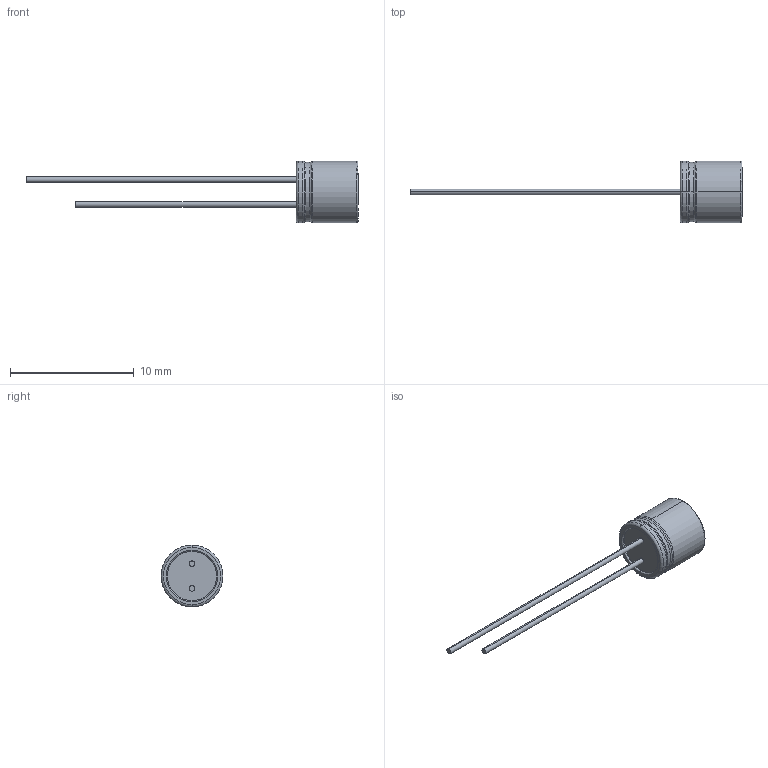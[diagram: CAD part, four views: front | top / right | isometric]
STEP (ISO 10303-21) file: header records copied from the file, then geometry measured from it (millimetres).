
FILE_DESCRIPTION((''),'2;1');
FILE_NAME('POLYMER-RADIAL5X5','2020-06-03T',('xy'),(''),'PRO/ENGINEER BY PARAMETRIC TECHNOLOGY CORPORATION, 2009380','PRO/ENGINEER BY PARAMETRIC TECHNOLOGY CORPORATION, 2009380','');
FILE_SCHEMA(('CONFIG_CONTROL_DESIGN'));
Length unit declared in the file: millimetre
Products named in the file (1): POLYMER-RADIAL5X5
Bounding box: 26.8 x 5 x 5 mm (x, y, z)
Volume: 101.1 mm3; surface area: 175 mm2
Topology: 1 solids, 1 shells, 415 faces, 1147 edges, 758 vertices
Faces by surface type: plane 388, cylinder 13, torus 10, cone 4
Entity records: 13006 total; most frequent: CARTESIAN_POINT 2320, ORIENTED_EDGE 2294, DIRECTION 2024, EDGE_CURVE 1147, VECTOR 1100, LINE 1100, VERTEX_POINT 758, AXIS2_PLACEMENT_3D 462
